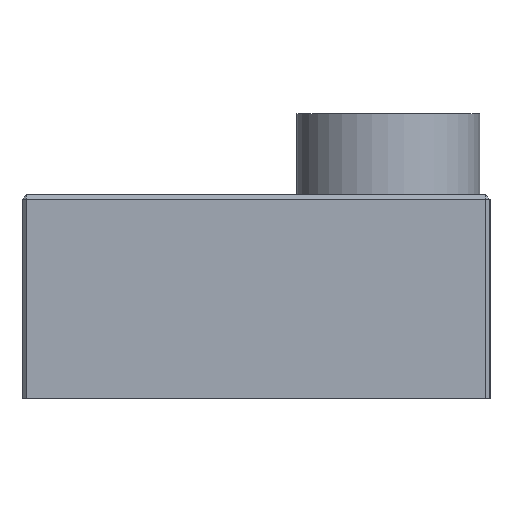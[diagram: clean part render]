
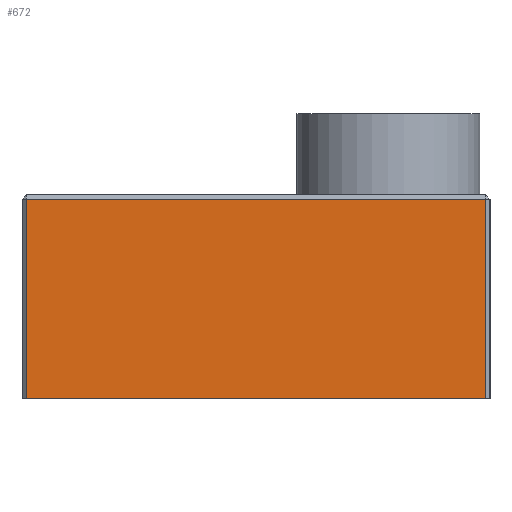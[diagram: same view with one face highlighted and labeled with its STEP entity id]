
A CAD part, left-side view. The second image highlights one B-rep face of the part: STEP entity #672.
In plain terms, the highlighted planar face has unit normal (-1, 0, 0).
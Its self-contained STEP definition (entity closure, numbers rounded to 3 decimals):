
#71=FACE_OUTER_BOUND('',#112,.T.);
#112=EDGE_LOOP('',(#491,#492,#493,#494));
#167=LINE('',#1024,#238);
#174=LINE('',#1039,#245);
#177=LINE('',#1043,#248);
#183=LINE('',#1053,#254);
#238=VECTOR('',#817,10.);
#245=VECTOR('',#830,10.);
#248=VECTOR('',#835,10.);
#254=VECTOR('',#849,10.);
#302=VERTEX_POINT('',#1013);
#305=VERTEX_POINT('',#1020);
#309=VERTEX_POINT('',#1032);
#311=VERTEX_POINT('',#1037);
#367=EDGE_CURVE('',#302,#305,#167,.T.);
#374=EDGE_CURVE('',#311,#309,#174,.T.);
#377=EDGE_CURVE('',#309,#302,#177,.T.);
#383=EDGE_CURVE('',#311,#305,#183,.T.);
#491=ORIENTED_EDGE('',*,*,#367,.F.);
#492=ORIENTED_EDGE('',*,*,#377,.F.);
#493=ORIENTED_EDGE('',*,*,#374,.F.);
#494=ORIENTED_EDGE('',*,*,#383,.T.);
#642=PLANE('',#736);
#672=ADVANCED_FACE('',(#71),#642,.T.);
#736=AXIS2_PLACEMENT_3D('',#1052,#847,#848);
#817=DIRECTION('',(0.,0.,-1.));
#830=DIRECTION('',(0.,0.,1.));
#835=DIRECTION('',(0.,-1.,0.));
#847=DIRECTION('center_axis',(-1.,0.,0.));
#848=DIRECTION('ref_axis',(0.,-1.,0.));
#849=DIRECTION('',(0.,-1.,0.));
#1013=CARTESIAN_POINT('',(-17.5,-11.3,9.8));
#1020=CARTESIAN_POINT('',(-17.5,-11.3,0.));
#1024=CARTESIAN_POINT('',(-17.5,-11.3,0.));
#1032=CARTESIAN_POINT('',(-17.5,11.3,9.8));
#1037=CARTESIAN_POINT('',(-17.5,11.3,0.));
#1039=CARTESIAN_POINT('',(-17.5,11.3,0.));
#1043=CARTESIAN_POINT('',(-17.5,5.75,9.8));
#1052=CARTESIAN_POINT('Origin',(-17.5,11.5,0.));
#1053=CARTESIAN_POINT('',(-17.5,11.5,0.));
